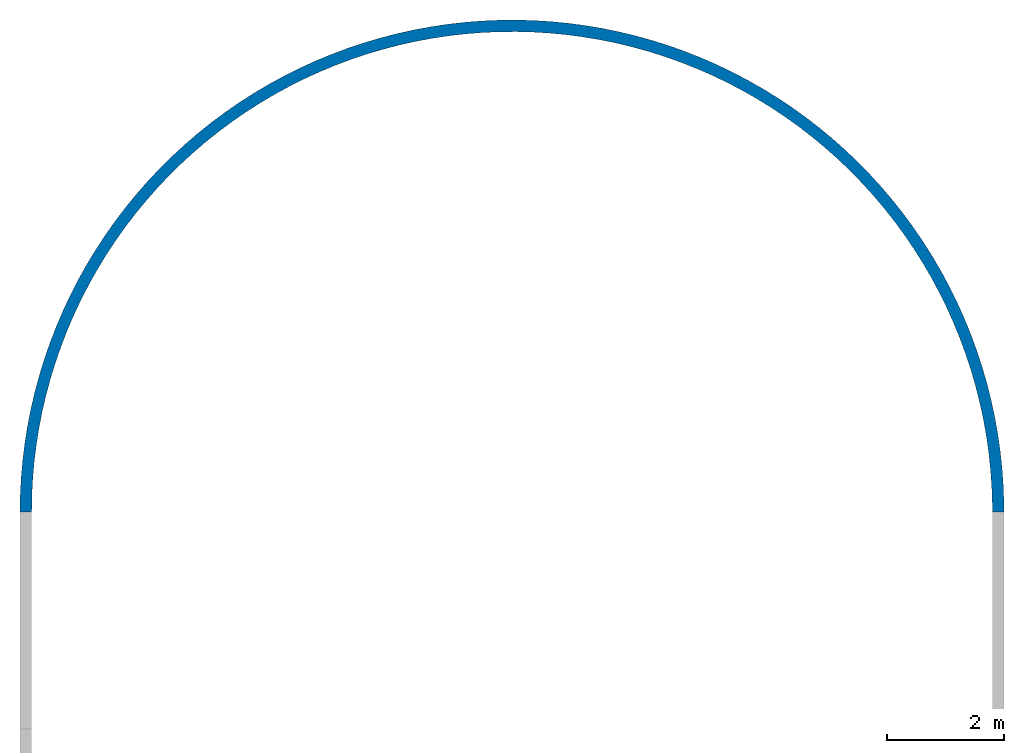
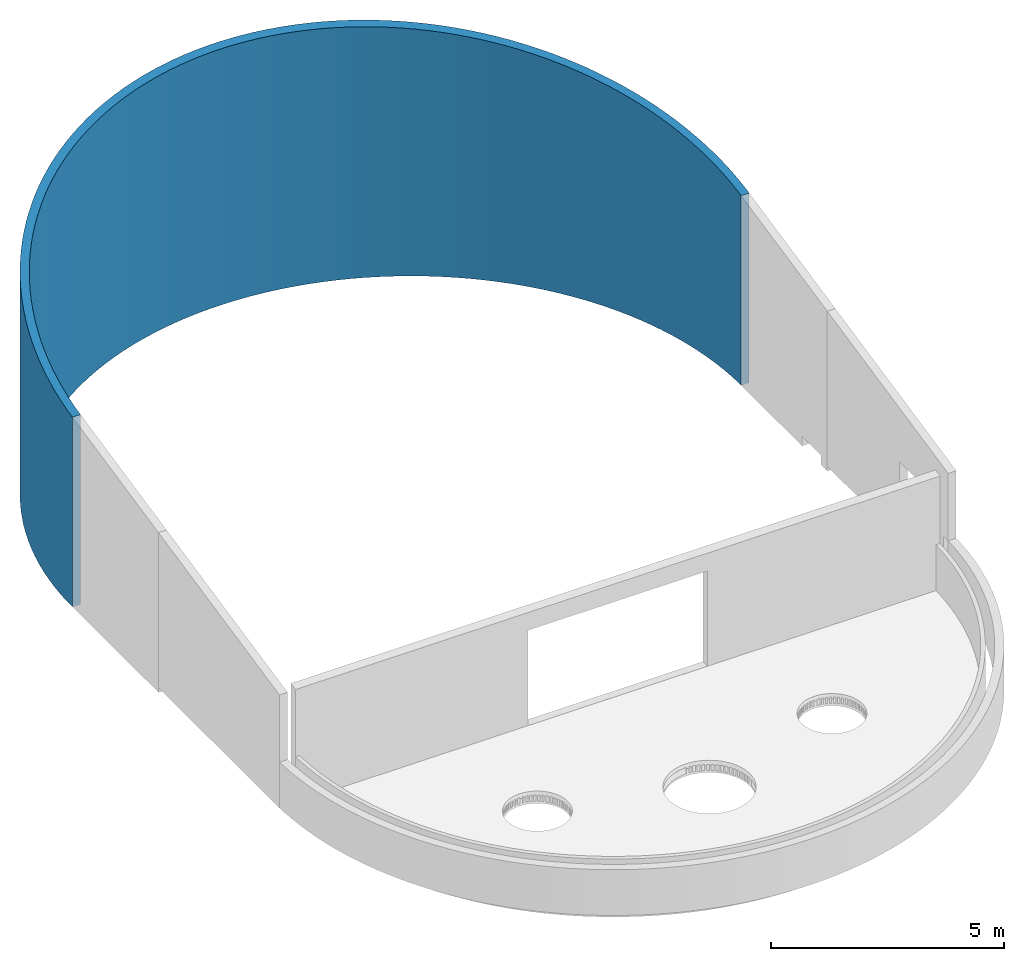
# One storey, part 10 of 10: 1 wall.
"""IFC4 building model written with IfcOpenShell, lengths in millimetres."""

from ifc_helpers import new_model, entity, si_unit, converted_unit, derived_unit, direction, frame, origin_with_axes, place, context, subcontext, project, spatial, polygons, material, constituent, constituent_set, type_object, element, save


model = new_model("IFC4")

# Units and contexts
model_context = context("Model", 3, precision=0.01, world=origin_with_axes(), true_north=direction((0.0, 1.0)))
body_context = subcontext(model_context, "Body", "Model", "MODEL_VIEW")
ifc_project = project(units=[si_unit("LENGTHUNIT", "METRE", prefix="MILLI"), si_unit("AREAUNIT", "SQUARE_METRE"), si_unit("VOLUMEUNIT", "CUBIC_METRE"), converted_unit("PLANEANGLEUNIT", "DEGREE", entity("IfcPlaneAngleMeasure", 0.0174532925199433), si_unit("PLANEANGLEUNIT", "RADIAN"), dimensions=[0, 0, 0, 0, 0, 0, 0]), converted_unit("TIMEUNIT", "Year", entity("IfcTimeMeasure", 31557600.0), si_unit("TIMEUNIT", "SECOND"), dimensions=[0, 0, 1, 0, 0, 0, 0]), si_unit("MASSUNIT", "GRAM", prefix="KILO"), si_unit("THERMODYNAMICTEMPERATUREUNIT", "DEGREE_CELSIUS"), si_unit("LUMINOUSINTENSITYUNIT", "LUMEN"), si_unit("ENERGYUNIT", "JOULE", prefix="MEGA"), derived_unit("THERMALCONDUCTANCEUNIT", [(si_unit("POWERUNIT", "WATT"), 1), (si_unit("LENGTHUNIT", "METRE"), -1), (si_unit("THERMODYNAMICTEMPERATUREUNIT", "KELVIN"), -1)]), derived_unit("SPECIFICHEATCAPACITYUNIT", [(si_unit("ENERGYUNIT", "JOULE"), 1), (si_unit("MASSUNIT", "GRAM", prefix="KILO"), -1), (si_unit("THERMODYNAMICTEMPERATUREUNIT", "KELVIN"), -1)]), derived_unit("MASSDENSITYUNIT", [(si_unit("MASSUNIT", "GRAM", prefix="KILO"), 1), (si_unit("VOLUMEUNIT", "CUBIC_METRE"), -1)])], contexts=[model_context])

# Site, building, storey
site_placement = place(None, origin_with_axes())
site = spatial("IfcSite", under=ifc_project, at=site_placement, Name="Exteriér", CompositionType="ELEMENT")
building_placement = place(site_placement, origin_with_axes())
building = spatial("IfcBuilding", under=site, at=building_placement, Name="Univerzitní lezecké centrum", CompositionType="ELEMENT")
storey_placement = place(building_placement, frame((0.0, 0.0, 9600.000000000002), z_axis=(0.0, 0.0, 1.0), x_axis=(1.0, 0.0, 0.0)))
storey = spatial("IfcBuildingStorey", under=building, at=storey_placement, Name="4.NP", CompositionType="ELEMENT", Elevation=9600.0)

# Wall
ifc_material = material(Name="Tepelná izolace - minerální vata - obvodová izolace")
ifc_constituent = constituent(ifc_material, Name="Tepelná izolace - minerální vata - obvodová izolace")
ifc_constituent_set = constituent_set(constituents=[ifc_constituent], Name="Obvodová tepelná izolace")
wall_type = type_object("IfcWallType", Name="Obvodová tepelná izolace 200", PredefinedType="NOTDEFINED")
wall_placement = place(storey_placement, frame((10649.85164885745, 8399.999999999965, -120.000000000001), z_axis=(0.0, 0.0, 1.0), x_axis=(0.0, 1.0, 0.0)))
element("IfcWall", 1, at=wall_placement, inside=storey, type_object=wall_type, material=ifc_constituent_set, Name="St01", PredefinedType="NOTDEFINED", context=body_context, shape_type="Tessellation", body=[
    polygons([(442.1438529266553, -189.6512387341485, 0.0), (442.1438529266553, -189.6512387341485, 5072.111013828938), (147.4418335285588, -199.9999999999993, 5009.470165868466), (147.4418335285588, -199.9999999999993, 0.0), (736.3011531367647, -168.9664658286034, 0.0), (736.3011531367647, -168.9664658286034, 5134.636078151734), (0.0, -199.9999999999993, 4978.130436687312), (1029.551333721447, -137.9711648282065, 5196.968328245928), (1321.533111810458, -96.70352180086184, 5259.030971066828), (1611.886767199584, -45.21437829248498, 5320.747545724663), (1900.254585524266, 16.4328313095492, 5382.042017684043), (2186.281298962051, 88.16215792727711, 5442.838872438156), (2469.614523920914, 169.8852313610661, 5503.06320854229), (2749.905195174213, 261.5013691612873, 5562.640829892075), (3026.807995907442, 362.8977006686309, 5621.498337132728), (3299.981783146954, 473.9493060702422, 5679.563218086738), (3569.090008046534, 594.519370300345, 5736.763937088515), (3833.801130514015, 724.4593515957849, 5793.030023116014), (4093.78902766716, 863.6091644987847, 5848.292156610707), (4348.733395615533, 1011.797377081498, 5902.482254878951), (4598.320144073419, 1168.841422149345, 5955.53355596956), (4842.241783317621, 1334.547822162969, 6007.380700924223), (5080.197803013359, 1508.71242760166, 6057.959814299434), (5311.895042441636, 1691.120668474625, 6107.208582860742), (5537.048051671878, 1881.547818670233, 6155.066332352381), (5755.379443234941, 2079.75927281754, 6201.474102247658), (5966.620233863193, 2285.510835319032, 6246.374718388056), (6170.51017587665, 2498.549021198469, 6289.712863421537), (6366.798077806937, 2718.611368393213, 6331.435144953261), (6555.242113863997, 2945.426761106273, 6371.490161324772), (6735.610121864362, 3178.715763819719, 6409.8285649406), (6907.67988925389, 3418.190965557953, 6446.403123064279), (7071.239426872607, 3663.557333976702, 6481.168776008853), (7226.087230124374, 3914.512578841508, 6514.082692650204), (7372.03252722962, 4170.747524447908, 6545.104323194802), (7508.895514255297, 4431.946490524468, 6574.19544913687), (7636.507576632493, 4697.787681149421, 6601.32023034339), (7754.711496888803, 4967.943581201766, 6626.445249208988), (7863.361648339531, 5242.081359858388, 6649.539551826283), (7962.324174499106, 5519.863280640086, 6670.57468612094), (8051.477153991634, 5800.947117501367, 6689.524736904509), (8130.710750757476, 6084.986576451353, 6706.366357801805), (8199.927349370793, 6371.631722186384, 6721.078800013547), (8259.041675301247, 6660.529409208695, 6733.643937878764), (8307.980899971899, 6951.323716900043, 6744.046291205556), (8346.684730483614, 7243.656388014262, 6752.273044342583), (8375.10548389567, 7537.167270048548, 6758.314061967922), (8393.20814597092, 7831.494758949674, 6762.161901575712), (8400.970414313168, 8126.276244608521, 6763.811822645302), (8398.382725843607, 8421.148557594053, 6763.261792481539), (8385.44826858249, 8715.748416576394, 6760.512488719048), (8362.182977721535, 9009.712875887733, 6755.567298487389), (8328.615515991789, 9302.679772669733, 6748.432314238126), (8284.787238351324, 9594.288173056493, 6739.11632623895), (8230.752141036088, 9884.178816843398, 6727.630811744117), (8166.576795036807, 10171.99456009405, 6713.989920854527), (8092.340264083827, 10457.38081513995, 6698.210459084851), (8008.134007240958, 10739.98598743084, 6680.311866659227), (7914.061766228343, 11019.46190869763, 6660.316194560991), (7810.23943761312, 11295.46426589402, 6638.248077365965), (7696.794930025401, 11567.65302538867, 6614.134702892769), (7573.868006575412, 11835.69285188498, 6588.005778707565), (7441.610112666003, 12099.25352155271, 6559.893495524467), (7300.184189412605, 12358.01032886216, 6529.832487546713), (7149.76447290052, 12611.64448661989, 6497.859789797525), (6990.536279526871, 12859.84351871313, 6464.014792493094), (6822.695777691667, 13102.30164507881, 6428.33919251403), (6646.449746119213, 13338.7201584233, 6390.876942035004), (6462.015319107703, 13568.80779222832, 6351.674194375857), (6269.619719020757, 13792.28107958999, 6310.779247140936), (6069.499976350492, 14008.86470244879, 6268.242482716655), (5861.902637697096, 14218.29183078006, 6224.116306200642), (5647.083462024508, 14420.3044513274, 6178.455080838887), (5425.307105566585, 14614.65368547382, 6131.315061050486), (5196.84679577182, 14801.10009585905, 6082.754323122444), (4961.983994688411, 14979.41398136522, 6032.832693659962), (4721.008052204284, 15149.37566010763, 5981.611675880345), (4474.215849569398, 15310.77574008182, 5929.1543738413), (4221.911433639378, 15463.41537713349, 5875.525414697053), (3964.405642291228, 15607.10651993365, 5820.790869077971), (3702.015721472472, 15741.67214165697, 5765.018169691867), (3435.064934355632, 15866.94645807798, 5708.276028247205), (3163.882163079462, 15982.77513181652, 5650.634350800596), (2888.8015035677, 16089.01546248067, 5592.164151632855), (2610.161853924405, 16185.53656247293, 5532.937465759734), (2328.306496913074, 16272.2195182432, 5473.02726018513), (2043.582677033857, 16348.95753678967, 5412.507344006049), (1756.341172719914, 16415.65607722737, 5351.452277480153), (1466.935864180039, 16472.23296726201, 5289.937280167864), (1175.723297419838, 16518.61850442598, 5228.038138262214), (883.0622449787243, 16554.75554195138, 5165.831111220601), (589.3132639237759, 16580.59955917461, 5103.392837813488), (294.8382516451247, 16596.11871638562, 5040.8002417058), (0.0, 16599.99999999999, 4978.130436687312), (0.0, 16399.99999999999, 4978.130436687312), (287.8182932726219, 16396.21112790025, 5039.308103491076), (575.2819957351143, 16381.06147443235, 5100.410399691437), (862.0369534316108, 16355.83279095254, 5161.362047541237), (1147.729885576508, 16320.5561590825, 5222.087954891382), (1432.008819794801, 16275.27503947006, 5282.513307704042), (1714.523525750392, 16220.04521824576, 5342.56366222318), (1994.925946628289, 16154.93473829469, 5402.165036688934), (2272.870627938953, 16080.02381542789, 5461.2440024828), (2548.015143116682, 15995.40473955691, 5519.727774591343), (2820.020515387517, 15901.18176099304, 5577.544301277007), (3088.551635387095, 15797.47096201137, 5634.622352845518), (3353.277674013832, 15684.40011383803, 5690.891609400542), (3613.872490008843, 15562.10851923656, 5746.282747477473), (3870.015031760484, 15430.74684088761, 5800.727525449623), (4121.389732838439, 15290.47691577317, 5854.158867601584), (4367.686900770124, 15141.47155579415, 5906.510946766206), (4608.603098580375, 14983.91433486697, 5957.719265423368), (4843.841518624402, 14817.99936276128, 6007.720735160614), (5073.112348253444, 14643.93104595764, 6056.453754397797), (5296.133126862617, 14461.92383581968, 6103.858284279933), (5512.629093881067, 14272.20196439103, 6149.875922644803), (5722.333527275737, 14074.99916814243, 6194.449975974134), (5924.98807215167, 13870.55840000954, 6237.525529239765), (6120.343059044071, 13659.13153007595, 6279.049513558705), (6308.157811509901, 13440.9790352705, 6318.97077157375), (6488.200942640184, 13216.36967846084, 6357.240120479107), (6660.250640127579, 12985.58017733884, 6393.810412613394), (6824.094939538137, 12748.89486350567, 6428.636593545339), (6979.531985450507, 12506.60533217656, 6461.675757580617), (7126.370280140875, 12259.01008293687, 6492.887200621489), (7264.428919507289, 12006.41415199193, 6522.232470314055), (7393.537815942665, 11749.12873636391, 6549.675413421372), (7513.53790788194, 11487.47081049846, 6575.18222036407), (7624.281355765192, 11221.76273575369, 6598.721466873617), (7725.631724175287, 10952.33186325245, 6620.264152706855), (7817.464149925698, 10679.51013058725, 6639.78373737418), (7899.665495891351, 10403.63365287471, 6657.256172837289), (7972.13449039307, 10125.04230866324, 6672.659933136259), (8034.781851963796, 9844.07932120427, 6685.976040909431), (8087.53039934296, 9561.090835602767, 6697.188090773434), (8130.315146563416, 9276.425492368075, 6706.282269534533), (8163.083383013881, 8990.433997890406, 6713.247373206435), (8185.794738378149, 8703.468692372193, 6718.074820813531), (8198.421232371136, 8415.883115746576, 6720.758664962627), (8200.947309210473, 8128.031572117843, 6721.295599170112), (8193.369856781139, 7840.268693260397, 6719.684961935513), (8175.69821046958, 7552.949001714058, 6715.928737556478), (8147.95414166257, 7266.426474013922, 6710.031553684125), (8110.171830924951, 6981.0541045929, 6702.00067562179), (8062.397825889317, 6697.183470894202, 6691.845997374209), (8004.69098390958, 6415.164300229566, 6679.580029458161), (7937.122399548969, 6135.344038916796, 6665.217883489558), (7859.775316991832, 5858.067424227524, 6648.777253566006), (7772.745027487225, 5583.676059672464, 6630.278394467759), (7676.138751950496, 5312.507994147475, 6609.744096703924), (7570.075508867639, 5044.897305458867, 6587.19965843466), (7454.685967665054, 4781.1736887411, 6562.672854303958), (7330.112287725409, 4521.662050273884, 6536.193901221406), (7196.507943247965, 4266.68210719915, 6507.795421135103), (7054.037534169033, 4016.547993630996, 6477.512400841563), (6902.876583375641, 3771.567873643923, 6445.38214888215), (6743.21132046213, 3532.043561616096, 6411.444249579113), (6575.238452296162, 3298.270150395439, 6375.740514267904), (6399.164920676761, 3070.5356477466, 6338.314929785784), (6215.207647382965, 2849.120621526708, 6299.213604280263), (6023.593266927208, 2634.297854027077, 6258.484710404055), (5824.557847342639, 2426.332005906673, 6216.178425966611), (5618.346599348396, 2225.479290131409, 6172.346872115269), (5405.213574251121, 2031.987156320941, 6127.044049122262), (5185.421350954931, 1846.093985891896, 6080.325769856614), (4959.240712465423, 1668.028798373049, 6032.249591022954), (4726.950312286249, 1498.010969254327, 5982.874742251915), (4488.836331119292, 1336.249959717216, 5932.262053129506), (4245.192124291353, 1182.945058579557, 5880.47387825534), (3996.317860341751, 1038.285136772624, 5827.574020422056), (3742.520151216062, 902.4484146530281, 5773.627652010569), (3484.111674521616, 775.6022424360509, 5718.70123469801), (3221.410788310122, 657.9028940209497, 5662.862437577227), (2954.741138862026, 549.4953744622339, 5606.18005378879), (2684.43126195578, 450.5132413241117, 5548.72391576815), (2410.814178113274, 361.078440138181, 5490.56480921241), (2134.226982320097, 281.3011541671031, 5431.774385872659), (1855.01042872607, 211.279668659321, 5372.42507527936), (1573.508510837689, 151.1002497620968, 5312.589995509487), (1290.068037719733, 100.8370382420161, 5252.342863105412), (1005.038206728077, 60.55195814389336, 5191.757902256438), (718.7701733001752, 30.29464050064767, 5130.909753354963), (431.6166183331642, 10.10236218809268, 5069.873381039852), (143.931313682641, 0.0, 5008.723981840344), (0.0, 0.0, 4978.130436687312), (0.0, -199.9999999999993, 0.0), (143.931313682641, 0.0, 0.0), (431.6166183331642, 10.10236218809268, 0.0), (1029.551333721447, -137.9711648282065, 0.0), (718.7701733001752, 30.29464050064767, 0.0), (1321.533111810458, -96.70352180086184, 0.0), (1611.886767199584, -45.21437829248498, 0.0), (1900.254585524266, 16.4328313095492, 0.0), (2186.281298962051, 88.16215792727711, 0.0), (2469.614523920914, 169.8852313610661, 0.0), (2749.905195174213, 261.5013691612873, 0.0), (3026.807995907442, 362.8977006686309, 0.0), (3299.981783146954, 473.9493060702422, 0.0), (3569.090008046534, 594.519370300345, 0.0), (3833.801130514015, 724.4593515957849, 0.0), (4093.78902766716, 863.6091644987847, 0.0), (4348.733395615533, 1011.797377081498, 0.0), (4598.320144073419, 1168.841422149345, 0.0), (4842.241783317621, 1334.547822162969, 0.0), (5080.197803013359, 1508.71242760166, 0.0), (5311.895042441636, 1691.120668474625, 0.0), (5537.048051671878, 1881.547818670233, 0.0), (5755.379443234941, 2079.75927281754, 0.0), (5966.620233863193, 2285.510835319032, 0.0), (6170.51017587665, 2498.549021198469, 0.0), (6366.798077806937, 2718.611368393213, 0.0), (6555.242113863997, 2945.426761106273, 0.0), (6735.610121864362, 3178.715763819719, 0.0), (6907.67988925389, 3418.190965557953, 0.0), (7071.239426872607, 3663.557333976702, 0.0), (7226.087230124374, 3914.512578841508, 0.0), (7372.03252722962, 4170.747524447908, 0.0), (7508.895514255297, 4431.946490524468, 0.0), (7636.507576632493, 4697.787681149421, 0.0), (7754.711496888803, 4967.943581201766, 0.0), (7863.361648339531, 5242.081359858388, 0.0), (7962.324174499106, 5519.863280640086, 0.0), (8051.477153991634, 5800.947117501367, 0.0), (8130.710750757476, 6084.986576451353, 0.0), (8199.927349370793, 6371.631722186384, 0.0), (8259.041675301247, 6660.529409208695, 0.0), (8307.980899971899, 6951.323716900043, 0.0), (8346.684730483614, 7243.656388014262, 0.0), (8375.10548389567, 7537.167270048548, 0.0), (8393.20814597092, 7831.494758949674, 0.0), (8400.970414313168, 8126.276244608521, 0.0), (8398.382725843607, 8421.148557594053, 0.0), (8385.44826858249, 8715.748416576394, 0.0), (8362.182977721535, 9009.712875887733, 0.0), (8328.615515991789, 9302.679772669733, 0.0), (8284.787238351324, 9594.288173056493, 0.0), (8230.752141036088, 9884.178816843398, 0.0), (8166.576795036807, 10171.99456009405, 0.0), (8092.340264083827, 10457.38081513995, 0.0), (8008.134007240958, 10739.98598743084, 0.0), (7914.061766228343, 11019.46190869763, 0.0), (7810.23943761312, 11295.46426589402, 0.0), (7696.794930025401, 11567.65302538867, 0.0), (7573.868006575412, 11835.69285188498, 0.0), (7441.610112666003, 12099.25352155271, 0.0), (7300.184189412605, 12358.01032886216, 0.0), (7149.76447290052, 12611.64448661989, 0.0), (6990.536279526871, 12859.84351871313, 0.0), (6822.695777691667, 13102.30164507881, 0.0), (6646.449746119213, 13338.7201584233, 0.0), (6462.015319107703, 13568.80779222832, 0.0), (6269.619719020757, 13792.28107958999, 0.0), (6069.499976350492, 14008.86470244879, 0.0), (5861.902637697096, 14218.29183078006, 0.0), (5647.083462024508, 14420.3044513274, 0.0), (5425.307105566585, 14614.65368547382, 0.0), (5196.84679577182, 14801.10009585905, 0.0), (4961.983994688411, 14979.41398136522, 0.0), (4721.008052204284, 15149.37566010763, 0.0), (4474.215849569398, 15310.77574008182, 0.0), (4221.911433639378, 15463.41537713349, 0.0), (3964.405642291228, 15607.10651993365, 0.0), (3702.015721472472, 15741.67214165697, 0.0), (3435.064934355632, 15866.94645807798, 0.0), (3163.882163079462, 15982.77513181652, 0.0), (2888.8015035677, 16089.01546248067, 0.0), (2610.161853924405, 16185.53656247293, 0.0), (2328.306496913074, 16272.2195182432, 0.0), (2043.582677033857, 16348.95753678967, 0.0), (1756.341172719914, 16415.65607722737, 0.0), (1466.935864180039, 16472.23296726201, 0.0), (1175.723297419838, 16518.61850442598, 0.0), (883.0622449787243, 16554.75554195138, 0.0), (589.3132639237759, 16580.59955917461, 0.0), (294.8382516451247, 16596.11871638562, 0.0), (0.0, 16599.99999999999, 0.0), (0.0, 16399.99999999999, 0.0), (287.8182932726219, 16396.21112790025, 0.0), (575.2819957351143, 16381.06147443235, 0.0), (862.0369534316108, 16355.83279095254, 0.0), (1147.729885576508, 16320.5561590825, 0.0), (1432.008819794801, 16275.27503947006, 0.0), (1714.523525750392, 16220.04521824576, 0.0), (1994.925946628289, 16154.93473829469, 0.0), (2272.870627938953, 16080.02381542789, 0.0), (2548.015143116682, 15995.40473955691, 0.0), (2820.020515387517, 15901.18176099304, 0.0), (3088.551635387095, 15797.47096201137, 0.0), (3353.277674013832, 15684.40011383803, 0.0), (3613.872490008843, 15562.10851923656, 0.0), (3870.015031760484, 15430.74684088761, 0.0), (4121.389732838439, 15290.47691577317, 0.0), (4367.686900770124, 15141.47155579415, 0.0), (4608.603098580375, 14983.91433486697, 0.0), (4843.841518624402, 14817.99936276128, 0.0), (5073.112348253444, 14643.93104595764, 0.0), (5296.133126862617, 14461.92383581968, 0.0), (5512.629093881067, 14272.20196439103, 0.0), (5722.333527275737, 14074.99916814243, 0.0), (5924.98807215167, 13870.55840000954, 0.0), (6120.343059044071, 13659.13153007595, 0.0), (6308.157811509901, 13440.9790352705, 0.0), (6488.200942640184, 13216.36967846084, 0.0), (6660.250640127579, 12985.58017733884, 0.0), (6824.094939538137, 12748.89486350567, 0.0), (6979.531985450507, 12506.60533217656, 0.0), (7126.370280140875, 12259.01008293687, 0.0), (7264.428919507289, 12006.41415199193, 0.0), (7393.537815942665, 11749.12873636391, 0.0), (7513.53790788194, 11487.47081049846, 0.0), (7624.281355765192, 11221.76273575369, 0.0), (7725.631724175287, 10952.33186325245, 0.0), (7817.464149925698, 10679.51013058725, 0.0), (7899.665495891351, 10403.63365287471, 0.0), (7972.13449039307, 10125.04230866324, 0.0), (8034.781851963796, 9844.07932120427, 0.0), (8087.53039934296, 9561.090835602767, 0.0), (8130.315146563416, 9276.425492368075, 0.0), (8163.083383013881, 8990.433997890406, 0.0), (8185.794738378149, 8703.468692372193, 0.0), (8198.421232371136, 8415.883115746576, 0.0), (8200.947309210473, 8128.031572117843, 0.0), (8193.369856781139, 7840.268693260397, 0.0), (8175.69821046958, 7552.949001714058, 0.0), (8147.95414166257, 7266.426474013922, 0.0), (8110.171830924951, 6981.0541045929, 0.0), (8062.397825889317, 6697.183470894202, 0.0), (8004.69098390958, 6415.164300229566, 0.0), (7937.122399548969, 6135.344038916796, 0.0), (7859.775316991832, 5858.067424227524, 0.0), (7772.745027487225, 5583.676059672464, 0.0), (7676.138751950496, 5312.507994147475, 0.0), (7570.075508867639, 5044.897305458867, 0.0), (7454.685967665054, 4781.1736887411, 0.0), (7330.112287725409, 4521.662050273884, 0.0), (7196.507943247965, 4266.68210719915, 0.0), (7054.037534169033, 4016.547993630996, 0.0), (6902.876583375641, 3771.567873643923, 0.0), (6743.21132046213, 3532.043561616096, 0.0), (6575.238452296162, 3298.270150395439, 0.0), (6399.164920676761, 3070.5356477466, 0.0), (6215.207647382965, 2849.120621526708, 0.0), (6023.593266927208, 2634.297854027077, 0.0), (5824.557847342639, 2426.332005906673, 0.0), (5618.346599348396, 2225.479290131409, 0.0), (5405.213574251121, 2031.987156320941, 0.0), (5185.421350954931, 1846.093985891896, 0.0), (4959.240712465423, 1668.028798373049, 0.0), (4726.950312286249, 1498.010969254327, 0.0), (4488.836331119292, 1336.249959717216, 0.0), (4245.192124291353, 1182.945058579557, 0.0), (3996.317860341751, 1038.285136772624, 0.0), (3742.520151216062, 902.4484146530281, 0.0), (3484.111674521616, 775.6022424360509, 0.0), (3221.410788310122, 657.9028940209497, 0.0), (2954.741138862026, 549.4953744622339, 0.0), (2684.43126195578, 450.5132413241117, 0.0), (2410.814178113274, 361.078440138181, 0.0), (2134.226982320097, 281.3011541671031, 0.0), (1855.01042872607, 211.279668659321, 0.0), (1573.508510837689, 151.1002497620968, 0.0), (1290.068037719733, 100.8370382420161, 0.0), (1005.038206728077, 60.55195814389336, 0.0), (0.0, 0.0, 0.0)], [[[1, 2, 3, 4]], [[5, 6, 2, 1]], [[7, 3, 2, 6, 8, 9, 10, 11, 12, 13, 14, 15, 16, 17, 18, 19, 20, 21, 22, 23, 24, 25, 26, 27, 28, 29, 30, 31, 32, 33, 34, 35, 36, 37, 38, 39, 40, 41, 42, 43, 44, 45, 46, 47, 48, 49, 50, 51, 52, 53, 54, 55, 56, 57, 58, 59, 60, 61, 62, 63, 64, 65, 66, 67, 68, 69, 70, 71, 72, 73, 74, 75, 76, 77, 78, 79, 80, 81, 82, 83, 84, 85, 86, 87, 88, 89, 90, 91, 92, 93, 94, 95, 96, 97, 98, 99, 100, 101, 102, 103, 104, 105, 106, 107, 108, 109, 110, 111, 112, 113, 114, 115, 116, 117, 118, 119, 120, 121, 122, 123, 124, 125, 126, 127, 128, 129, 130, 131, 132, 133, 134, 135, 136, 137, 138, 139, 140, 141, 142, 143, 144, 145, 146, 147, 148, 149, 150, 151, 152, 153, 154, 155, 156, 157, 158, 159, 160, 161, 162, 163, 164, 165, 166, 167, 168, 169, 170, 171, 172, 173, 174, 175, 176, 177, 178, 179, 180, 181, 182, 183, 184, 185]], [[4, 3, 7, 186]], [[4, 187, 188, 1]], [[189, 8, 6, 5]], [[1, 188, 190, 5]], [[191, 9, 8, 189]], [[192, 10, 9, 191]], [[193, 11, 10, 192]], [[194, 12, 11, 193]], [[195, 13, 12, 194]], [[196, 14, 13, 195]], [[197, 15, 14, 196]], [[198, 16, 15, 197]], [[199, 17, 16, 198]], [[200, 18, 17, 199]], [[201, 19, 18, 200]], [[202, 20, 19, 201]], [[203, 21, 20, 202]], [[204, 22, 21, 203]], [[205, 23, 22, 204]], [[206, 24, 23, 205]], [[207, 25, 24, 206]], [[208, 26, 25, 207]], [[209, 27, 26, 208]], [[210, 28, 27, 209]], [[211, 29, 28, 210]], [[212, 30, 29, 211]], [[213, 31, 30, 212]], [[214, 32, 31, 213]], [[215, 33, 32, 214]], [[216, 34, 33, 215]], [[217, 35, 34, 216]], [[218, 36, 35, 217]], [[219, 37, 36, 218]], [[220, 38, 37, 219]], [[221, 39, 38, 220]], [[222, 40, 39, 221]], [[223, 41, 40, 222]], [[224, 42, 41, 223]], [[225, 43, 42, 224]], [[226, 44, 43, 225]], [[227, 45, 44, 226]], [[228, 46, 45, 227]], [[229, 47, 46, 228]], [[230, 48, 47, 229]], [[231, 49, 48, 230]], [[232, 50, 49, 231]], [[233, 51, 50, 232]], [[234, 52, 51, 233]], [[235, 53, 52, 234]], [[236, 54, 53, 235]], [[237, 55, 54, 236]], [[238, 56, 55, 237]], [[239, 57, 56, 238]], [[240, 58, 57, 239]], [[241, 59, 58, 240]], [[242, 60, 59, 241]], [[243, 61, 60, 242]], [[244, 62, 61, 243]], [[245, 63, 62, 244]], [[246, 64, 63, 245]], [[247, 65, 64, 246]], [[248, 66, 65, 247]], [[249, 67, 66, 248]], [[250, 68, 67, 249]], [[251, 69, 68, 250]], [[252, 70, 69, 251]], [[253, 71, 70, 252]], [[254, 72, 71, 253]], [[255, 73, 72, 254]], [[256, 74, 73, 255]], [[257, 75, 74, 256]], [[258, 76, 75, 257]], [[259, 77, 76, 258]], [[260, 78, 77, 259]], [[261, 79, 78, 260]], [[262, 80, 79, 261]], [[263, 81, 80, 262]], [[264, 82, 81, 263]], [[265, 83, 82, 264]], [[266, 84, 83, 265]], [[267, 85, 84, 266]], [[268, 86, 85, 267]], [[269, 87, 86, 268]], [[270, 88, 87, 269]], [[271, 89, 88, 270]], [[272, 90, 89, 271]], [[273, 91, 90, 272]], [[274, 92, 91, 273]], [[275, 93, 92, 274]], [[276, 94, 93, 275]], [[277, 95, 94, 276]], [[278, 96, 95, 277]], [[279, 97, 96, 278]], [[280, 98, 97, 279]], [[281, 99, 98, 280]], [[282, 100, 99, 281]], [[283, 101, 100, 282]], [[284, 102, 101, 283]], [[285, 103, 102, 284]], [[286, 104, 103, 285]], [[287, 105, 104, 286]], [[288, 106, 105, 287]], [[289, 107, 106, 288]], [[290, 108, 107, 289]], [[291, 109, 108, 290]], [[292, 110, 109, 291]], [[293, 111, 110, 292]], [[294, 112, 111, 293]], [[295, 113, 112, 294]], [[296, 114, 113, 295]], [[297, 115, 114, 296]], [[298, 116, 115, 297]], [[299, 117, 116, 298]], [[300, 118, 117, 299]], [[301, 119, 118, 300]], [[302, 120, 119, 301]], [[303, 121, 120, 302]], [[304, 122, 121, 303]], [[305, 123, 122, 304]], [[306, 124, 123, 305]], [[307, 125, 124, 306]], [[308, 126, 125, 307]], [[309, 127, 126, 308]], [[310, 128, 127, 309]], [[311, 129, 128, 310]], [[312, 130, 129, 311]], [[313, 131, 130, 312]], [[314, 132, 131, 313]], [[315, 133, 132, 314]], [[316, 134, 133, 315]], [[317, 135, 134, 316]], [[318, 136, 135, 317]], [[319, 137, 136, 318]], [[320, 138, 137, 319]], [[321, 139, 138, 320]], [[322, 140, 139, 321]], [[323, 141, 140, 322]], [[324, 142, 141, 323]], [[325, 143, 142, 324]], [[326, 144, 143, 325]], [[327, 145, 144, 326]], [[328, 146, 145, 327]], [[329, 147, 146, 328]], [[330, 148, 147, 329]], [[331, 149, 148, 330]], [[332, 150, 149, 331]], [[333, 151, 150, 332]], [[334, 152, 151, 333]], [[335, 153, 152, 334]], [[336, 154, 153, 335]], [[337, 155, 154, 336]], [[338, 156, 155, 337]], [[339, 157, 156, 338]], [[340, 158, 157, 339]], [[341, 159, 158, 340]], [[342, 160, 159, 341]], [[343, 161, 160, 342]], [[344, 162, 161, 343]], [[345, 163, 162, 344]], [[346, 164, 163, 345]], [[347, 165, 164, 346]], [[348, 166, 165, 347]], [[349, 167, 166, 348]], [[350, 168, 167, 349]], [[351, 169, 168, 350]], [[352, 170, 169, 351]], [[353, 171, 170, 352]], [[354, 172, 171, 353]], [[355, 173, 172, 354]], [[356, 174, 173, 355]], [[357, 175, 174, 356]], [[358, 176, 175, 357]], [[359, 177, 176, 358]], [[360, 178, 177, 359]], [[361, 179, 178, 360]], [[362, 180, 179, 361]], [[363, 181, 180, 362]], [[190, 182, 181, 363]], [[188, 183, 182, 190]], [[187, 184, 183, 188]], [[364, 185, 184, 187]], [[186, 7, 185, 364]], [[186, 364, 187, 4]], [[5, 190, 363, 189]], [[189, 363, 362, 191]], [[191, 362, 361, 192]], [[192, 361, 360, 193]], [[193, 360, 359, 194]], [[194, 359, 358, 195]], [[195, 358, 357, 196]], [[196, 357, 356, 197]], [[197, 356, 355, 198]], [[198, 355, 354, 199]], [[199, 354, 353, 200]], [[200, 353, 352, 201]], [[201, 352, 351, 202]], [[202, 351, 350, 203]], [[203, 350, 349, 204]], [[204, 349, 348, 205]], [[205, 348, 347, 206]], [[206, 347, 346, 207]], [[207, 346, 345, 208]], [[208, 345, 344, 209]], [[209, 344, 343, 210]], [[210, 343, 342, 211]], [[211, 342, 341, 212]], [[212, 341, 340, 213]], [[213, 340, 339, 214]], [[214, 339, 338, 215]], [[215, 338, 337, 216]], [[216, 337, 336, 217]], [[217, 336, 335, 218]], [[218, 335, 334, 219]], [[219, 334, 333, 220]], [[220, 333, 332, 221]], [[221, 332, 331, 222]], [[222, 331, 330, 223]], [[223, 330, 329, 224]], [[224, 329, 328, 225]], [[225, 328, 327, 226]], [[226, 327, 326, 227]], [[227, 326, 325, 228]], [[228, 325, 324, 229]], [[229, 324, 323, 230]], [[230, 323, 322, 231]], [[231, 322, 321, 232]], [[232, 321, 320, 233]], [[233, 320, 319, 234]], [[234, 319, 318, 235]], [[235, 318, 317, 236]], [[236, 317, 316, 237]], [[237, 316, 315, 238]], [[238, 315, 314, 239]], [[239, 314, 313, 240]], [[240, 313, 312, 241]], [[241, 312, 311, 242]], [[242, 311, 310, 243]], [[243, 310, 309, 244]], [[244, 309, 308, 245]], [[245, 308, 307, 246]], [[246, 307, 306, 247]], [[247, 306, 305, 248]], [[248, 305, 304, 249]], [[249, 304, 303, 250]], [[250, 303, 302, 251]], [[251, 302, 301, 252]], [[252, 301, 300, 253]], [[253, 300, 299, 254]], [[254, 299, 298, 255]], [[255, 298, 297, 256]], [[256, 297, 296, 257]], [[257, 296, 295, 258]], [[258, 295, 294, 259]], [[259, 294, 293, 260]], [[260, 293, 292, 261]], [[261, 292, 291, 262]], [[262, 291, 290, 263]], [[263, 290, 289, 264]], [[264, 289, 288, 265]], [[265, 288, 287, 266]], [[266, 287, 286, 267]], [[267, 286, 285, 268]], [[268, 285, 284, 269]], [[269, 284, 283, 270]], [[270, 283, 282, 271]], [[271, 282, 281, 272]], [[272, 281, 280, 273]], [[273, 280, 279, 274]], [[274, 279, 278, 275]], [[275, 278, 277, 276]]], closed=True),
])

save(model, "model.ifc")
